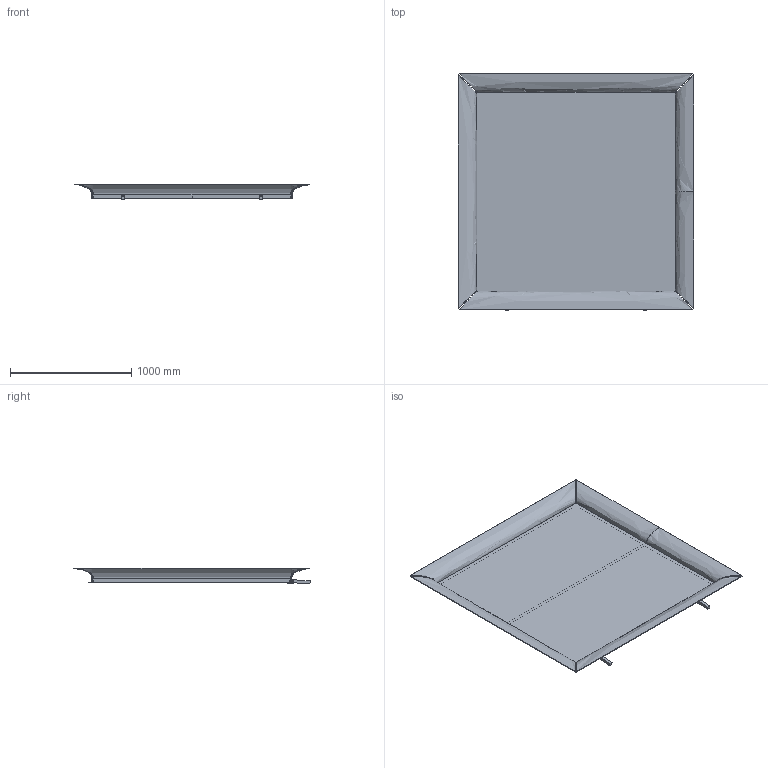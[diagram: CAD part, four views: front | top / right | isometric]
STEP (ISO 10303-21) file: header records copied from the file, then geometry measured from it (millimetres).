
FILE_DESCRIPTION(/* description */ (''),/* implementation_level */ '2;1');
FILE_NAME(/* name */ '444 - Caadre - 195x195 da terra',/* time_stamp */ '2010-11-02T14:25:48+01:00',/* author */ (''),/* organization */ (''),/* preprocessor_version */ 'ST-DEVELOPER v10',/* originating_system */ '',/* authorisation */ '');
FILE_SCHEMA (('CONFIG_CONTROL_DESIGN'));
Length unit declared in the file: centimetre
Products named in the file (1): 1
Bounding box: 1946 x 1951.66 x 131.13 mm (x, y, z)
Volume: 32851389.9 mm3; surface area: 9626136.5 mm2
Topology: 11 solids, 11 shells, 106 faces, 240 edges, 152 vertices
Faces by surface type: bspline 56, plane 50
Entity records: 4734 total; most frequent: CARTESIAN_POINT 2982, ORIENTED_EDGE 480, EDGE_CURVE 240, B_SPLINE_CURVE_WITH_KNOTS 240, VERTEX_POINT 152, EDGE_LOOP 108, ADVANCED_FACE 106, FACE_OUTER_BOUND 106
